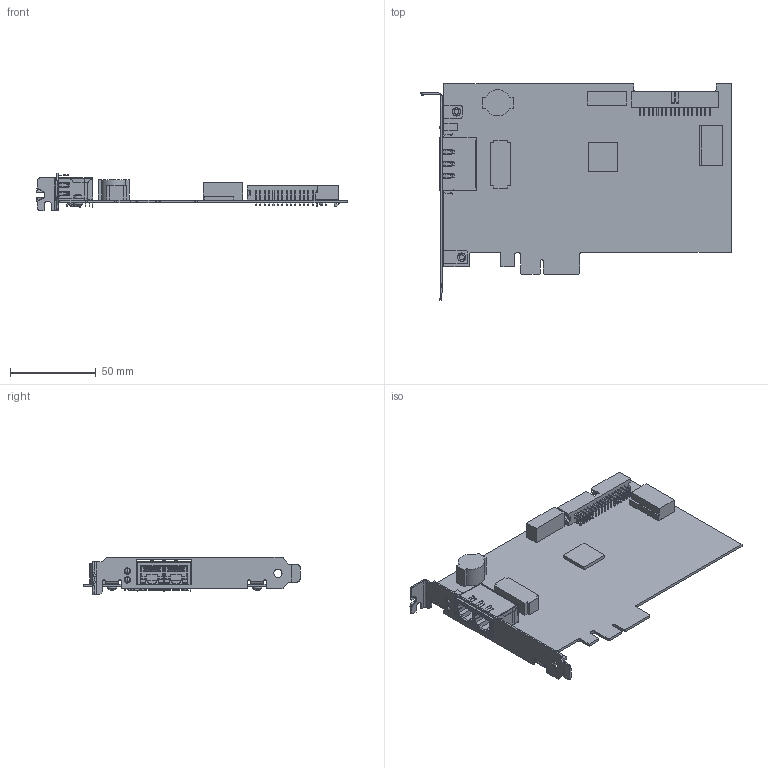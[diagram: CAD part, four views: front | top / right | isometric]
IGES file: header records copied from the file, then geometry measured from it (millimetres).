
Start section:  PTC IGES file: cu_pxie_8236.igs
Global section: file name: cu_pxie_8236.igs; native system: Pro/ENGINEER by Parametric Technology Corporation; preprocessor: 2011490; author: dkendric; organization: Unknown; date: 20130307.132704; units: inch
Bounding box: 180.92 x 126.32 x 21.59 mm (x, y, z)
Surface area: 53499.1 mm2 (no closed solid volume)
Topology: 0 solids, 0 shells, 2007 faces, 10756 edges, 10752 vertices
Faces by surface type: bspline 1661, revolution 332, extrusion 14
